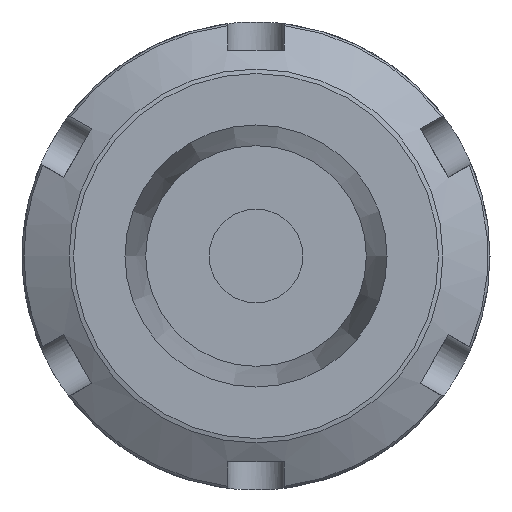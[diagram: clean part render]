
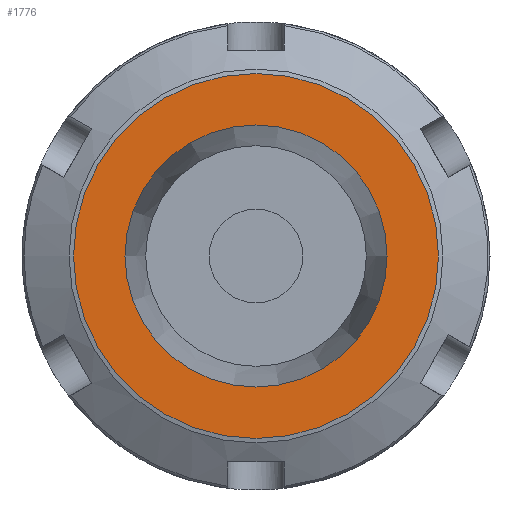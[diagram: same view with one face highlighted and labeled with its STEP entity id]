
A CAD part, front view. The second image highlights one B-rep face of the part: STEP entity #1776.
In plain terms, the highlighted planar face has unit normal (0, -1, 0) as drawn and (0, 0, -1) by its records, which use the part's own axes.
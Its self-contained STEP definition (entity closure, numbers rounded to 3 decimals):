
#62=FACE_BOUND('',#404,.T.);
#190=CIRCLE('',#2066,14.001);
#193=CIRCLE('',#2071,19.5);
#304=FACE_OUTER_BOUND('',#403,.T.);
#403=EDGE_LOOP('',(#1553));
#404=EDGE_LOOP('',(#1554));
#800=VERTEX_POINT('',#3371);
#803=VERTEX_POINT('',#3380);
#1051=EDGE_CURVE('',#800,#800,#190,.T.);
#1056=EDGE_CURVE('',#803,#803,#193,.T.);
#1553=ORIENTED_EDGE('',*,*,#1056,.F.);
#1554=ORIENTED_EDGE('',*,*,#1051,.T.);
#1600=PLANE('',#2072);
#1776=ADVANCED_FACE('',(#304,#62),#1600,.F.);
#2066=AXIS2_PLACEMENT_3D('',#3372,#2583,#2584);
#2071=AXIS2_PLACEMENT_3D('',#3382,#2595,#2596);
#2072=AXIS2_PLACEMENT_3D('',#3383,#2597,#2598);
#2583=DIRECTION('center_axis',(0.,0.,1.));
#2584=DIRECTION('ref_axis',(0.,-1.,0.));
#2595=DIRECTION('center_axis',(0.,0.,1.));
#2596=DIRECTION('ref_axis',(-1.,0.,0.));
#2597=DIRECTION('center_axis',(0.,0.,1.));
#2598=DIRECTION('ref_axis',(1.,0.,0.));
#3371=CARTESIAN_POINT('',(0.,14.001,0.));
#3372=CARTESIAN_POINT('Origin',(0.,0.,0.));
#3380=CARTESIAN_POINT('',(19.5,0.,0.));
#3382=CARTESIAN_POINT('Origin',(0.,0.,0.));
#3383=CARTESIAN_POINT('Origin',(0.,0.,0.));
